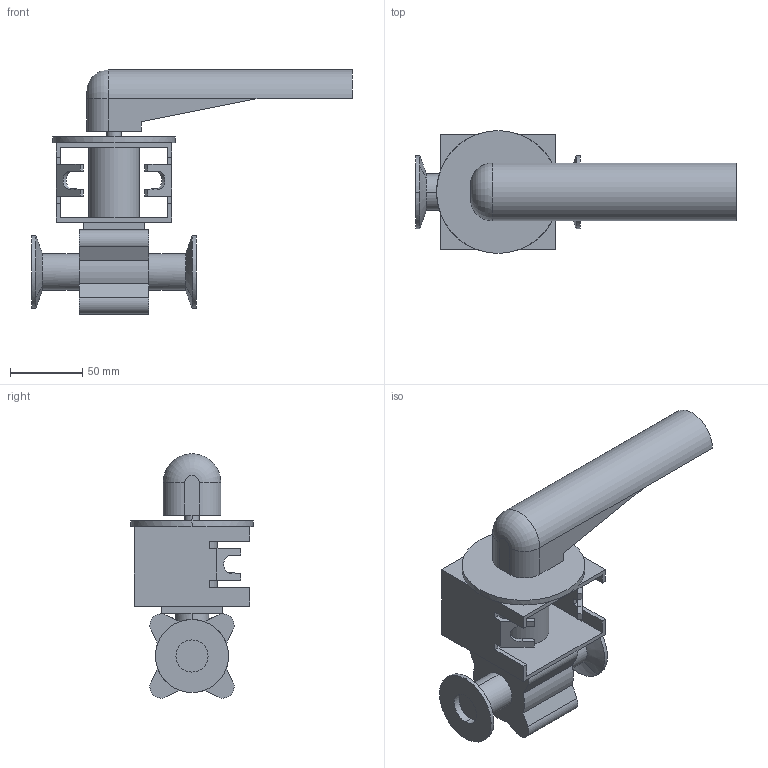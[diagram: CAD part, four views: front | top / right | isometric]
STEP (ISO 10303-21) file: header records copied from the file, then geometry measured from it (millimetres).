
FILE_DESCRIPTION(('Creo Elements/Direct Modeling STEP Export'),'2;1');
FILE_NAME('BLV1-1T-HL-12CL.stp','2019-05-10T 8:08:34',(''),(''),'Creo Elements/Direct Modeling STEP processor for AP214 (Solid Model)','Creo Elements/Direct Modeling 19.0F 14-Feb-2017 (C) Parametric Technology GmbH','');
FILE_SCHEMA(('AUTOMOTIVE_DESIGN { 1 0 10303 214 1 1 1 1 }'));
Length unit declared in the file: millimetre
Products named in the file (2): BLV1-1T-HL-12CL
Assembly tree (1 placements, depth 2):
  BLV1-1T-HL-12CL
    BLV1-1T-HL-12CL
Bounding box: 222 x 85 x 169.21 mm (x, y, z)
Volume: 489337.6 mm3; surface area: 99092 mm2
Topology: 1 solids, 1 shells, 109 faces, 288 edges, 188 vertices
Faces by surface type: plane 70, cylinder 34, cone 4, torus 1
Entity records: 3207 total; most frequent: CARTESIAN_POINT 582, ORIENTED_EDGE 576, DIRECTION 493, EDGE_CURVE 288, VECTOR 191, LINE 191, VERTEX_POINT 188, AXIS2_PLACEMENT_3D 151
